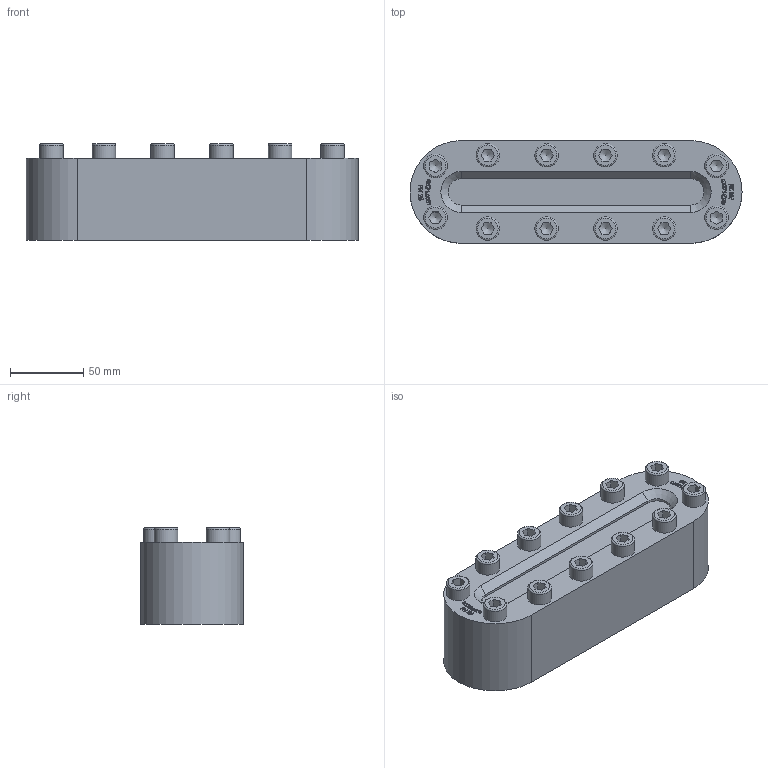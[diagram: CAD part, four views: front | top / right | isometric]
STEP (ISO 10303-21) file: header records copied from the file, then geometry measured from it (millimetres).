
FILE_DESCRIPTION(/* description */ (''),/* implementation_level */ '2;1');
FILE_NAME(/* name */ 'W:\Konstruktion_ACI\337\STEP\ACI-337-226-25.stp',/* time_stamp */ '2022-03-21T17:10:57+01:00',/* author */ ('Travnicek'),/* organization */ ('ACI Industriearmaturen'),/* preprocessor_version */ 'ST-DEVELOPER v16.1',/* originating_system */ 'Autodesk Inventor 2016',/* authorisation */ '');
FILE_SCHEMA (('AUTOMOTIVE_DESIGN { 1 0 10303 214 3 1 1 }'));
Length unit declared in the file: centimetre
Products named in the file (1): 337
Bounding box: 226 x 70 x 65.9 mm (x, y, z)
Volume: 759681.4 mm3; surface area: 75986.9 mm2
Topology: 1 solids, 1 shells, 560 faces, 1496 edges, 988 vertices
Faces by surface type: plane 310, bspline 206, cylinder 18, cone 14, torus 12
Full cylindrical faces by diameter (mm): 16 x12
Entity records: 18551 total; most frequent: CARTESIAN_POINT 5807, ORIENTED_EDGE 2896, DIRECTION 1724, EDGE_CURVE 1448, VERTEX_POINT 976, LINE 914, VECTOR 914, EDGE_LOOP 646
